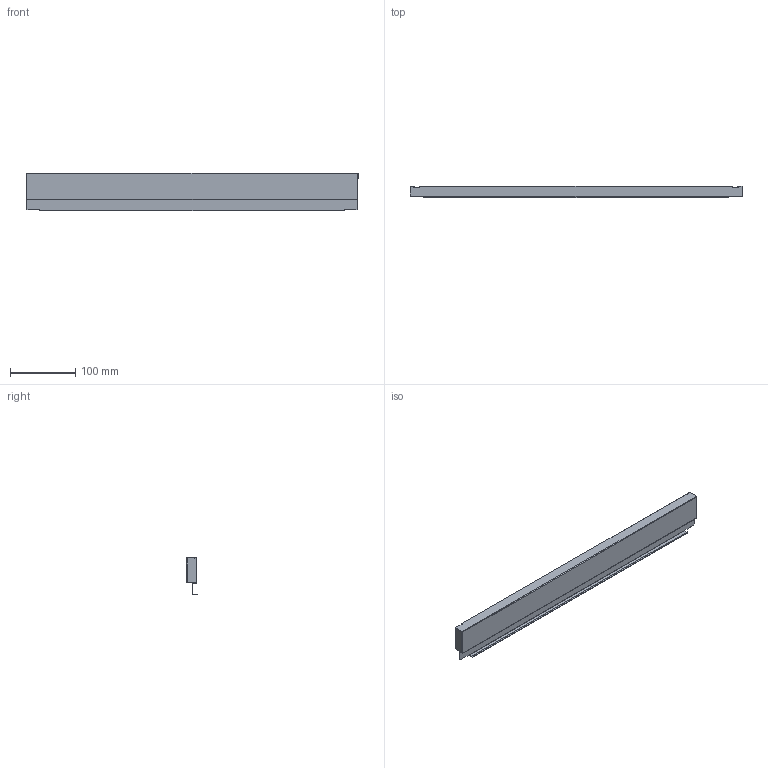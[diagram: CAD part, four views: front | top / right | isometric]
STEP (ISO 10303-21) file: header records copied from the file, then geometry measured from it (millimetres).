
FILE_DESCRIPTION (( 'STEP AP214' ), '1' );
FILE_NAME ('_STRW_H63_KAB_600.step', '2010-08-24T14:40:51', ( 'grass' ), ( '' ), 'SwSTEP 2.0', 'SolidWorks 2009', '' );
FILE_SCHEMA (( 'AUTOMOTIVE_DESIGN' ));
Length unit declared in the file: millimetre
Products named in the file (1): _STRW_H63_KAB_600
Bounding box: 510 x 17 x 58.14 mm (x, y, z)
Volume: 35597.5 mm3; surface area: 90020.2 mm2
Topology: 1 solids, 1 shells, 77 faces, 217 edges, 142 vertices
Faces by surface type: plane 54, cylinder 23
Entity records: 2507 total; most frequent: CARTESIAN_POINT 437, ORIENTED_EDGE 434, DIRECTION 419, EDGE_CURVE 217, LINE 171, VECTOR 171, VERTEX_POINT 142, AXIS2_PLACEMENT_3D 124
